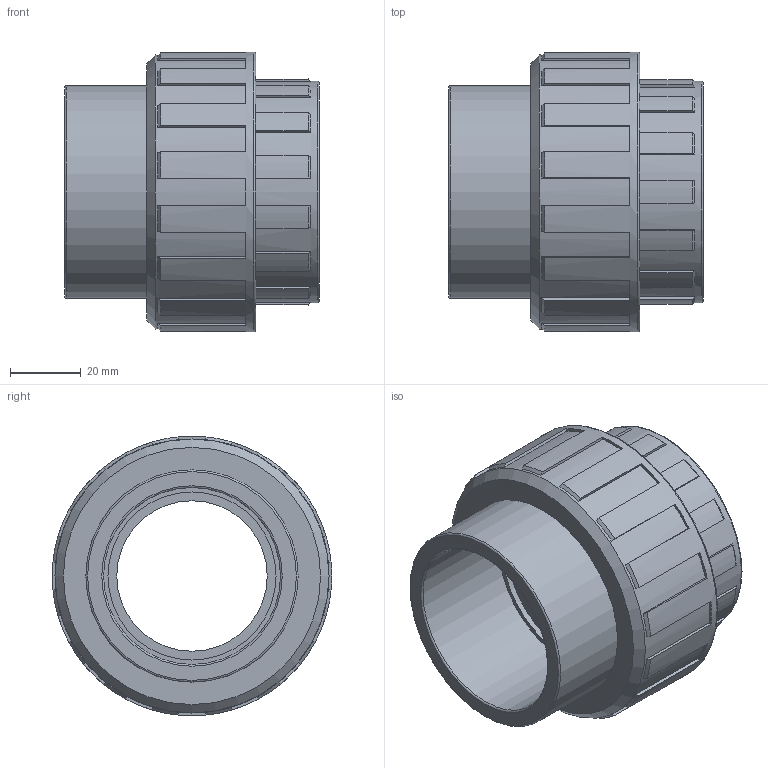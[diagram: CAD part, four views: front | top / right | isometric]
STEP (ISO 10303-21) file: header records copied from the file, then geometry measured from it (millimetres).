
FILE_DESCRIPTION(/* description */ ('PLASSON UNION+O RING THR-CEM 50-1.1/2"'),/* implementation_level */ '2;1');
FILE_NAME(/* name */ 'C:\Dropbox\KIMPROJECTS-Inventor\99-16-3568-Processing\PVC Catalog 2017\050802\050802050015.ipt.stp',/* time_stamp */ '2017-12-07T15:58:18+02:00',/* author */ ('KIM'),/* organization */ (''),/* preprocessor_version */ 'ST-DEVELOPER v15.6',/* originating_system */ 'Autodesk Inventor 2015',/* authorisation */ '');
FILE_SCHEMA (('CONFIG_CONTROL_DESIGN','AUTOMOTIVE_DESIGN { 1 0 10303 214 3 1 1 }'));
Length unit declared in the file: millimetre
Products named in the file (1): 050802050015
Bounding box: 72 x 79 x 79 mm (x, y, z)
Volume: 145388.7 mm3; surface area: 33313.7 mm2
Topology: 1 solids, 1 shells, 141 faces, 396 edges, 262 vertices
Faces by surface type: plane 83, cone 31, cylinder 22, torus 5
Full cylindrical faces by diameter (mm): 42.5 x1, 44.845 x1, 47.5 x1, 50 x1, 60 x1, 62.5 x1, 77.42 x1, 79 x1
Entity records: 4512 total; most frequent: DIRECTION 802, CARTESIAN_POINT 780, ORIENTED_EDGE 758, EDGE_CURVE 379, AXIS2_PLACEMENT_3D 281, VERTEX_POINT 259, LINE 240, VECTOR 240
